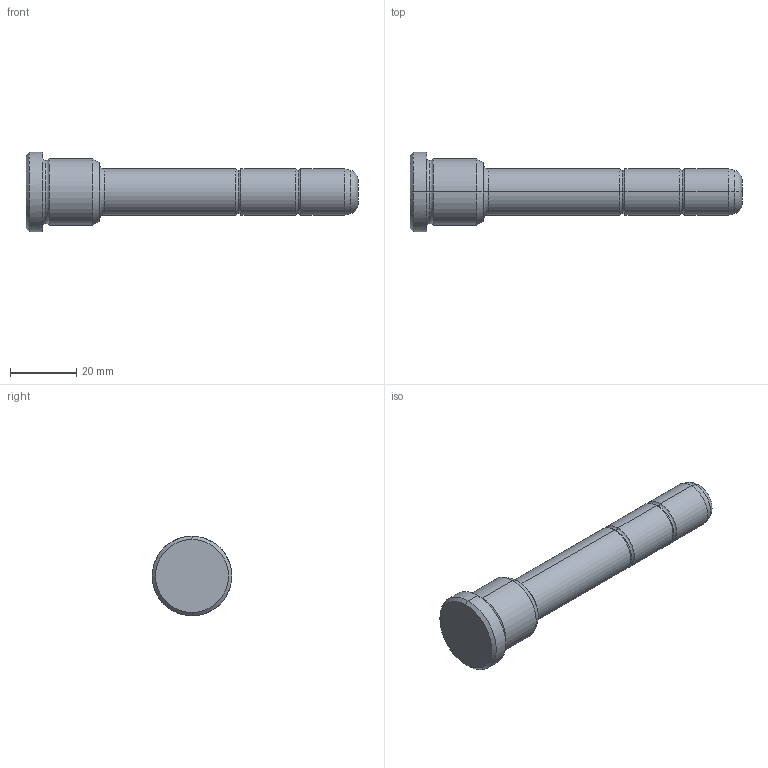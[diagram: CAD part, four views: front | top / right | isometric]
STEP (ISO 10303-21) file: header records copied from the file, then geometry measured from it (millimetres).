
FILE_DESCRIPTION(('CATIA V5 STEP Exchange'),'2;1');
FILE_NAME('C:\Users\Utente\Desktop\IO LAVORO\3D X SITO CF\X SITO\PLASTICA\351\351-14X22X100.stp','2021-08-18T09:57:32+00:00',('none'),('none'),'CATIA Version 5 Release 20 GA (IN-10)','CATIA V5 STEP AP203','none');
FILE_SCHEMA(('CONFIG_CONTROL_DESIGN'));
Length unit declared in the file: millimetre
Products named in the file (1): 351-14X22X100
Bounding box: 100 x 24 x 24 mm (x, y, z)
Volume: 19309.2 mm3; surface area: 5617.5 mm2
Topology: 1 solids, 1 shells, 36 faces, 102 edges, 70 vertices
Faces by surface type: torus 16, cylinder 10, cone 6, plane 4
Entity records: 1292 total; most frequent: CARTESIAN_POINT 321, ORIENTED_EDGE 204, DIRECTION 166, AXIS2_PLACEMENT_3D 115, EDGE_CURVE 102, CIRCLE 78, VERTEX_POINT 70, EDGE_LOOP 38
